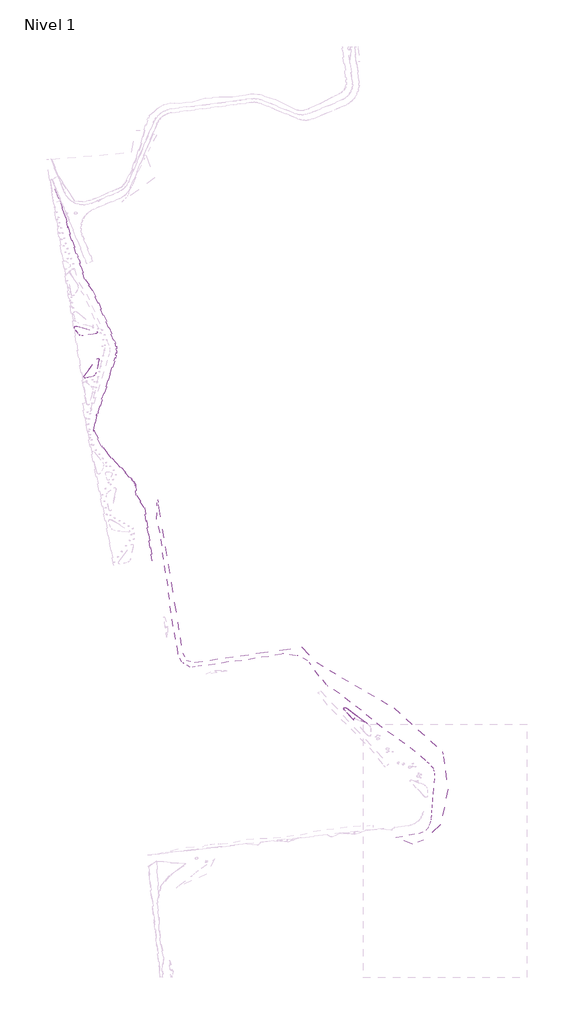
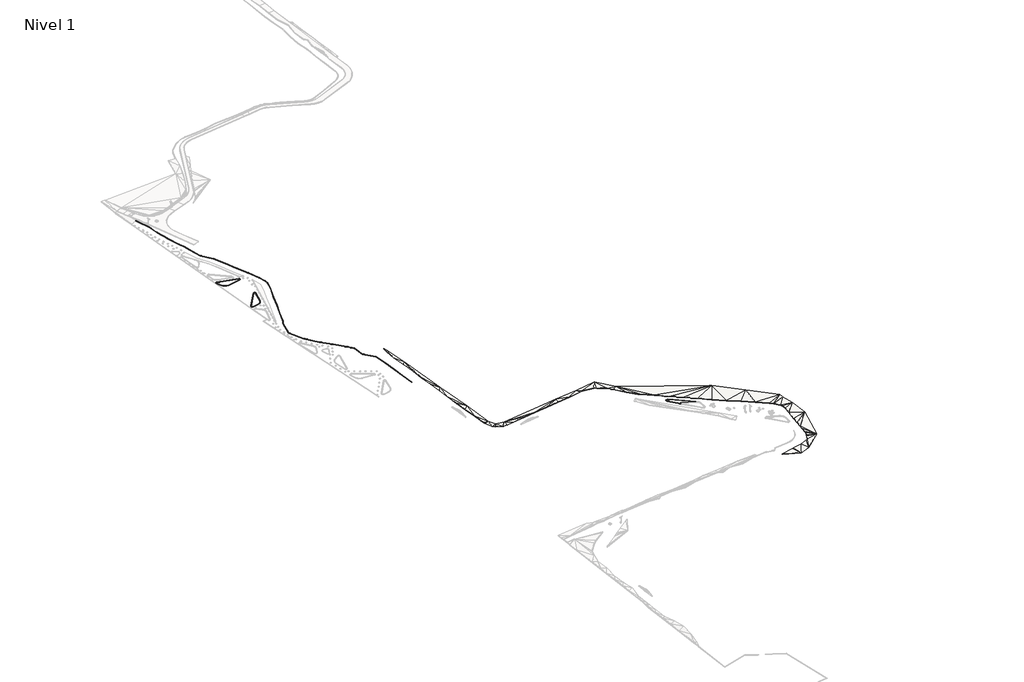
# One storey, part 25 of 45: 8 slabs.
"""IFC4 building model written with IfcOpenShell, lengths in millimetres."""

from ifc_helpers import new_model, si_unit, point, frame, frame_2d, origin, place, context, project, spatial, polyline, circle_curve, trimmed, segment, composite_curve, outline, extrude, faceted_brep, element, save
from ifc_brep_helpers import plane_surface, cylinder_surface, revolved_surface, advanced_brep

model = new_model("IFC4")

# Units and contexts
model_context = context("Model", 3, world=origin())
ifc_project = project(units=[si_unit("LENGTHUNIT", "METRE", prefix="MILLI")], contexts=[model_context])

# Site, building, storey
site = spatial("IfcSite", under=ifc_project)
building = spatial("IfcBuilding", under=site)
storey = spatial("IfcBuildingStorey", under=building, Name="Nivel 1", Elevation=0.0)

# Slabs
placement = place(None, origin())
element("IfcSlab", 1, ObjectType="Bordillo", at=placement, inside=storey, context=model_context, shape_type="AdvancedBrep", body=[
    advanced_brep(
    [(-166211.8423019, 4281.6676897, 4350.0), (-164537.1525516, 6125.7413337, 4350.0), (-148782.7979584, -5912.9642392, 4350.0), (-149334.3354135, -5680.2875761, 4350.0), (-164628.2301597, 6006.5571514, 4350.0), (-166101.9588564, 4383.7736563, 4350.0), (-159242.9454128, -2997.6953689, 4350.0), (-159014.1816779, -3464.2434916, 4350.0), (-166211.8423019, 4281.6676897, 4750.0), (-159014.2888373, -3464.1281734, 4750.0), (-159242.9454128, -2997.6953689, 4750.0), (-166101.9588564, 4383.7736563, 4750.0), (-164628.2301599, 6006.5571515, 4750.0), (-149334.3354135, -5680.2875761, 4750.0), (-148782.7979584, -5912.9642392, 4750.0), (-164537.1525516, 6125.7413337, 4750.0)],
    [
        (0, 1, circle_curve(frame((-165296.1469227, 5132.5507449, 4350.0), z_axis=(0.0, 0.0, -1.0), x_axis=(1.0, 0.0, 0.0)), 1250.0000004)),
        (1, 2),
        (2, 3),
        (3, 4),
        (4, 5, circle_curve(frame((-165296.1469227, 5132.5507449, 4350.0), z_axis=(0.0, 0.0, 1.0), x_axis=(1.0, 0.0, 0.0)), 1100.0000004)),
        (5, 6),
        (6, 7, circle_curve(frame((-158354.8810062, -2851.607691, 4350.0), z_axis=(0.0, 0.0, 1.0), x_axis=(1.0, 0.0, 0.0)), 899.9999999)),
        (7, 0),
        (8, 9),
        (9, 10, circle_curve(frame((-158354.8810062, -2851.607691, 4750.0), z_axis=(0.0, 0.0, -1.0), x_axis=(1.0, 0.0, 0.0)), 899.9999999)),
        (10, 11),
        (11, 12, circle_curve(frame((-165296.1469227, 5132.5507449, 4750.0), z_axis=(0.0, 0.0, -1.0), x_axis=(1.0, 0.0, 0.0)), 1100.0000004)),
        (12, 13),
        (13, 14),
        (14, 15),
        (15, 8, circle_curve(frame((-165296.1469227, 5132.5507449, 4750.0), z_axis=(0.0, 0.0, 1.0), x_axis=(1.0, 0.0, 0.0)), 1250.0000004)),
        (0, 8),
        (15, 1),
        (14, 2),
        (13, 3),
        (12, 4),
        (11, 5),
        (10, 6),
        (9, 7),
    ],
    [
        plane_surface(frame((-164046.1469223, 5132.5507449, 4350.0), z_axis=(0.0, 0.0, -1.0), x_axis=(0.0, -1.0, 0.0))),
        plane_surface(frame((-164046.1469223, 5132.5507449, 4750.0), z_axis=(0.0, 0.0, 1.0), x_axis=(0.0, 1.0, 0.0))),
        cylinder_surface(frame((-165296.1469227, 5132.5507449, 4750.0), z_axis=(0.0, 0.0, -1.0), x_axis=(1.0, 0.0, 0.0)), 1250.0000004),
        plane_surface(frame((-164537.1525516, 6125.7413337, 4350.0), z_axis=(0.6071718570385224, 0.7945705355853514, 0.0), x_axis=(0.0, 0.0, 1.0))),
        plane_surface(frame((-148782.7979584, -5912.9642392, 4350.0), z_axis=(-0.38869596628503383, -0.9213660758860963, 0.0), x_axis=(0.0, 0.0, 1.0))),
        plane_surface(frame((-149334.3354135, -5680.2875761, 4350.0), z_axis=(-0.607171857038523, -0.794570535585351, 0.0), x_axis=(0.0, 0.0, 1.0))),
        revolved_surface(polyline([(-164196.1469223, 5132.5507449, 4750.0), (-164196.1469223, 5132.5507449, 4350.0)]), (-165296.1469227, 5132.5507449, 4750.0), (0.0, 0.0, 1.0)),
        plane_surface(frame((-166101.9588564, 4383.7736563, 4350.0), z_axis=(0.7325563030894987, 0.6807064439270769, 0.0), x_axis=(0.0, 0.0, 1.0))),
        revolved_surface(polyline([(-157454.8810063, -2851.607691, 4750.0), (-157454.8810063, -2851.607691, 4350.0)]), (-158354.8810062, -2851.607691, 4750.0), (0.0, 0.0, 1.0)),
        plane_surface(frame((-159014.2888373, -3464.1281734, 4350.0), z_axis=(-0.7325563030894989, -0.6807064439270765, 0.0), x_axis=(0.0, 0.0, 1.0))),
    ],
    [
        (0, [[1, 2, 3, 4, 5, 6, 7, 8]]),
        (1, [[9, 10, 11, 12, 13, 14, 15, 16]]),
        (2, [[-1, 17, -16, 18]]),
        (3, [[-2, -18, -15, 19]]),
        (4, [[-3, -19, -14, 20]]),
        (5, [[-4, -20, -13, 21]]),
        (6, [[-5, -21, -12, 22]]),
        (7, [[-6, -22, -11, 23]]),
        (8, [[-7, -23, -10, 24]]),
        (9, [[-8, -24, -9, -17]]),
    ],
),
])
element("IfcSlab", 2, ObjectType="Girasol Silvestre", at=placement, inside=storey, context=model_context, shape_type="SweptSolid", body=[
    extrude(outline(composite_curve([segment(trimmed(circle_curve(frame_2d((-165296.1469204, 5132.550743)), 1100.0000014), [point((-166101.9588548, 4383.7736537))], [point((-164628.2980924, 6006.6090626))], False, "CARTESIAN"), True, "CONTINUOUS"), segment(polyline([(-164628.2980924, 6006.6090626), (-149334.3354126, -5680.2875764), (-158005.0546366, -2022.3782227)]), True, "CONTINUOUS"), segment(trimmed(circle_curve(frame_2d((-158354.8810062, -2851.607691)), 899.9999999), [point((-158005.0546366, -2022.3782227))], [point((-159242.9454126, -2997.6953698))], True, "CARTESIAN"), True, "CONTINUOUS"), segment(polyline([(-159242.9454126, -2997.6953698), (-166101.9588548, 4383.7736537)]), True, "CONTINUOUS")], self_intersect=False)), frame((0.0, 0.0, 4450.0), z_axis=(0.0, 0.0, 1.0), x_axis=(1.0, 0.0, 0.0)), (0.0, 0.0, 1.0), 300.0),
])
element("IfcSlab", 3, ObjectType="Tierra de Chacra (20cm)", at=placement, inside=storey, context=model_context, shape_type="AdvancedBrep", body=[
    advanced_brep(
    [(-349584.078902, 264736.8520127, 3000.0), (-348163.6502699, 264081.3811691, 3000.0), (-350356.929504, 254315.3070349, 3000.0), (-353331.2064142, 251419.415557, 3000.0), (-357974.4791605, 250506.1282681, 3000.0), (-359017.0538879, 252166.5942578, 3000.0), (-358777.1022901, 251986.5297396, 3000.0), (-358032.3927309, 250800.485226, 3000.0), (-353389.1042192, 251713.7756158, 3000.0), (-350649.6386439, 254381.0440823, 3000.0), (-348456.3594098, 264147.1182165, 3000.0), (-349344.1273048, 264556.7874937, 3000.0), (-349584.078902, 264736.8520127, 3200.0), (-359017.0538879, 252166.5942578, 3200.0), (-357974.4791605, 250506.1282681, 3200.0), (-353331.2064142, 251419.415557, 3200.0), (-350356.929504, 254315.3070349, 3200.0), (-348163.6502699, 264081.3811691, 3200.0), (-358777.1022949, 251986.5297428, 3200.0), (-349344.1273048, 264556.7874937, 3200.0), (-348456.3594098, 264147.1182165, 3200.0), (-350649.6386439, 254381.0440823, 3200.0), (-353389.1042192, 251713.7756158, 3200.0), (-358032.3927309, 250800.485226, 3200.0)],
    [
        (0, 1, circle_curve(frame((-348944.2079762, 264256.6799622, 3000.0), z_axis=(0.0, 0.0, -1.0), x_axis=(0.9997246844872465, -0.02346391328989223, 0.0)), 799.9999998)),
        (1, 2),
        (2, 3, circle_curve(frame((-354064.578611, 255147.9763022, 3000.0), z_axis=(0.0, 0.0, -1.0), x_axis=(0.9997246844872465, -0.02346391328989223, 0.0)), 3800.0000013)),
        (3, 4),
        (4, 5, circle_curve(frame((-358177.2232944, 251536.3684435, 3000.0), z_axis=(0.0, 0.0, -1.0), x_axis=(0.9997246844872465, -0.02346391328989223, 0.0)), 1050.0000013)),
        (5, 0),
        (6, 7, circle_curve(frame((-358177.2232944, 251536.3684435, 3000.0), z_axis=(0.0, 0.0, 1.0), x_axis=(0.9997246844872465, -0.02346391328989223, 0.0)), 750.0000013)),
        (7, 8),
        (8, 9, circle_curve(frame((-354064.578611, 255147.9763022, 3000.0), z_axis=(0.0, 0.0, 1.0), x_axis=(0.9997246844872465, -0.02346391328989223, 0.0)), 3500.0000013)),
        (9, 10),
        (10, 11, circle_curve(frame((-348944.2079762, 264256.6799622, 3000.0), z_axis=(0.0, 0.0, 1.0), x_axis=(0.9997246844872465, -0.02346391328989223, 0.0)), 499.9999998)),
        (11, 6),
        (12, 13),
        (13, 14, circle_curve(frame((-358177.2232944, 251536.3684435, 3200.0), z_axis=(0.0, 0.0, 1.0), x_axis=(0.9997246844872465, -0.02346391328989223, 0.0)), 1050.0000013)),
        (14, 15),
        (15, 16, circle_curve(frame((-354064.578611, 255147.9763022, 3200.0), z_axis=(0.0, 0.0, 1.0), x_axis=(0.9997246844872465, -0.02346391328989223, 0.0)), 3800.0000013)),
        (16, 17),
        (17, 12, circle_curve(frame((-348944.2079762, 264256.6799622, 3200.0), z_axis=(0.0, 0.0, 1.0), x_axis=(0.9997246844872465, -0.02346391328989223, 0.0)), 799.9999998)),
        (18, 19),
        (19, 20, circle_curve(frame((-348944.2079762, 264256.6799622, 3200.0), z_axis=(0.0, 0.0, -1.0), x_axis=(0.9997246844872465, -0.02346391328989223, 0.0)), 499.9999998)),
        (20, 21),
        (21, 22, circle_curve(frame((-354064.578611, 255147.9763022, 3200.0), z_axis=(0.0, 0.0, -1.0), x_axis=(0.9997246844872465, -0.02346391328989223, 0.0)), 3500.0000013)),
        (22, 23),
        (23, 18, circle_curve(frame((-358177.2232944, 251536.3684435, 3200.0), z_axis=(0.0, 0.0, -1.0), x_axis=(0.9997246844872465, -0.02346391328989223, 0.0)), 750.0000013)),
        (6, 18),
        (23, 7),
        (22, 8),
        (21, 9),
        (20, 10),
        (19, 11),
        (0, 12),
        (17, 1),
        (16, 2),
        (15, 3),
        (14, 4),
        (13, 5),
    ],
    [
        plane_surface(frame((-357427.4297797, 251518.7705085, 3000.0), z_axis=(0.0, 0.0, -1.0000000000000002), x_axis=(0.023463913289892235, 0.9997246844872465, 0.0))),
        plane_surface(frame((-357427.4297797, 251518.7705085, 3200.0), z_axis=(0.0, 0.0, 1.0000000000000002), x_axis=(-0.023463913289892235, -0.9997246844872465, 0.0))),
        revolved_surface(polyline([(-357427.4297797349, 251518.77050850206, 3200.0), (-357427.4297797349, 251518.77050850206, 3000.0)]), (-358177.2232944, 251536.3684435, 3200.0), (0.0, 0.0, 1.0000000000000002)),
        plane_surface(frame((-358032.3927309, 250800.485226, 3000.0), z_axis=(-0.19299268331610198, 0.9812001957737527, 0.0), x_axis=(0.0, 0.0, 1.0))),
        revolved_surface(polyline([(-350565.54221399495, 255065.85260565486, 3200.0), (-350565.54221399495, 255065.85260565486, 3000.0)]), (-354064.578611, 255147.9763022, 3200.0), (0.0, 0.0, 1.0000000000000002)),
        plane_surface(frame((-350649.6386439, 254381.0440823, 3000.0), z_axis=(-0.9756971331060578, 0.21912349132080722, 0.0), x_axis=(0.0, 0.0, 1.0))),
        revolved_surface(polyline([(-348444.3456341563, 264244.94800555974, 3200.0), (-348444.3456341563, 264244.94800555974, 3000.0)]), (-348944.2079762, 264256.6799622, 3200.0), (0.0, 0.0, 1.0000000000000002)),
        plane_surface(frame((-349344.1273048, 264556.7874937, 3000.0), z_axis=(0.7998386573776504, -0.6002150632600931, 0.0), x_axis=(0.0, 0.0, 1.0))),
        cylinder_surface(frame((-348944.2079762, 264256.6799622, 0.0), z_axis=(0.0, 0.0, -1.0000000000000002), x_axis=(0.9997246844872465, -0.02346391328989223, 0.0)), 799.9999998),
        plane_surface(frame((-348163.6502699, 264081.3811691, 3000.0), z_axis=(0.975697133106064, -0.21912349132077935, 0.0), x_axis=(0.0, 0.0, 1.0))),
        cylinder_surface(frame((-354064.578611, 255147.9763022, 0.0), z_axis=(0.0, 0.0, -1.0000000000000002), x_axis=(0.9997246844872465, -0.02346391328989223, 0.0)), 3800.0000013),
        plane_surface(frame((-353331.2064142, 251419.415557, 3000.0), z_axis=(0.19299268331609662, -0.9812001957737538, 0.0), x_axis=(0.0, 0.0, 1.0))),
        cylinder_surface(frame((-358177.2232944, 251536.3684435, 0.0), z_axis=(0.0, 0.0, -1.0000000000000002), x_axis=(0.9997246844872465, -0.02346391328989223, 0.0)), 1050.0000013),
        plane_surface(frame((-359017.0538879, 252166.5942578, 3000.0), z_axis=(-0.7998386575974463, 0.6002150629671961, 0.0), x_axis=(0.0, 0.0, 1.0))),
    ],
    [
        (0, [[1, 2, 3, 4, 5, 6], [7, 8, 9, 10, 11, 12]]),
        (1, [[13, 14, 15, 16, 17, 18], [19, 20, 21, 22, 23, 24]]),
        (2, [[-7, 25, -24, 26]]),
        (3, [[-8, -26, -23, 27]]),
        (4, [[-9, -27, -22, 28]]),
        (5, [[-10, -28, -21, 29]]),
        (6, [[-11, -29, -20, 30]]),
        (7, [[-12, -30, -19, -25]]),
        (8, [[-1, 31, -18, 32]]),
        (9, [[-2, -32, -17, 33]]),
        (10, [[-3, -33, -16, 34]]),
        (11, [[-4, -34, -15, 35]]),
        (12, [[-5, -35, -14, 36]]),
        (13, [[-6, -36, -13, -31]]),
    ],
),
])
element("IfcSlab", 4, ObjectType="Tierra de Chacra (20cm)", at=placement, inside=storey, context=model_context, shape_type="AdvancedBrep", body=[
    advanced_brep(
    [(-349816.3107021, 285068.4348905, 3100.0), (-349881.3073204, 283505.4137885, 3100.0), (-359746.5752757, 281813.3245584, 3100.0), (-363557.0878744, 283460.2927809, 3100.0), (-366170.2039876, 287405.6317585, 3100.0), (-365032.0484359, 289002.1001438, 3100.0), (-365107.1375286, 288711.649411, 3100.0), (-365920.0982801, 287571.3035284, 3100.0), (-363306.9732943, 283625.9511547, 3100.0), (-359797.2906376, 282109.0067392, 3100.0), (-349932.0226822, 283801.0959693, 3100.0), (-349891.3997958, 284777.984158, 3100.0), (-349816.3107021, 285068.4348905, 3300.0), (-365032.0484359, 289002.1001438, 3300.0), (-366170.2039877, 287405.6317586, 3300.0), (-363557.0878744, 283460.2927809, 3300.0), (-359746.5752757, 281813.3245584, 3300.0), (-349881.3073204, 283505.4137885, 3300.0), (-365107.1375275, 288711.6494167, 3300.0), (-349891.3997958, 284777.984158, 3300.0), (-349932.0226822, 283801.0959693, 3300.0), (-359797.2906376, 282109.0067392, 3300.0), (-363306.9732943, 283625.9511547, 3300.0), (-365920.0982801, 287571.3035284, 3300.0)],
    [
        (0, 1, circle_curve(frame((-350016.5482852, 284293.8996039, 3100.0), z_axis=(0.0, 0.0, -1.0), x_axis=(0.35911261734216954, -0.93329423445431, 0.0)), 799.9999998)),
        (1, 2),
        (2, 3, circle_curve(frame((-360388.9698589, 285558.6321838, 3100.0), z_axis=(0.0, 0.0, -1.0), x_axis=(0.35911261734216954, -0.93329423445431, 0.0)), 3800.0000013)),
        (3, 4),
        (4, 5, circle_curve(frame((-365294.8602605, 287985.5225778, 3100.0), z_axis=(0.0, 0.0, -1.0), x_axis=(0.35911261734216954, -0.93329423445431, 0.0)), 1050.0000013)),
        (5, 0),
        (6, 7, circle_curve(frame((-365294.8602605, 287985.5225778, 3100.0), z_axis=(0.0, 0.0, 1.0), x_axis=(0.35911261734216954, -0.93329423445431, 0.0)), 750.0000013)),
        (7, 8),
        (8, 9, circle_curve(frame((-360388.9698589, 285558.6321838, 3100.0), z_axis=(0.0, 0.0, 1.0), x_axis=(0.35911261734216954, -0.93329423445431, 0.0)), 3500.0000013)),
        (9, 10),
        (10, 11, circle_curve(frame((-350016.5482852, 284293.8996039, 3100.0), z_axis=(0.0, 0.0, 1.0), x_axis=(0.35911261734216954, -0.93329423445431, 0.0)), 499.9999998)),
        (11, 6),
        (12, 13),
        (13, 14, circle_curve(frame((-365294.8602605, 287985.5225778, 3300.0), z_axis=(0.0, 0.0, 1.0), x_axis=(0.35911261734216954, -0.93329423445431, 0.0)), 1050.0000013)),
        (14, 15),
        (15, 16, circle_curve(frame((-360388.9698589, 285558.6321838, 3300.0), z_axis=(0.0, 0.0, 1.0), x_axis=(0.35911261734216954, -0.93329423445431, 0.0)), 3800.0000013)),
        (16, 17),
        (17, 12, circle_curve(frame((-350016.5482852, 284293.8996039, 3300.0), z_axis=(0.0, 0.0, 1.0), x_axis=(0.35911261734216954, -0.93329423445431, 0.0)), 799.9999998)),
        (18, 19),
        (19, 20, circle_curve(frame((-350016.5482852, 284293.8996039, 3300.0), z_axis=(0.0, 0.0, -1.0), x_axis=(0.35911261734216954, -0.93329423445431, 0.0)), 499.9999998)),
        (20, 21),
        (21, 22, circle_curve(frame((-360388.9698589, 285558.6321838, 3300.0), z_axis=(0.0, 0.0, -1.0), x_axis=(0.35911261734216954, -0.93329423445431, 0.0)), 3500.0000013)),
        (22, 23),
        (23, 18, circle_curve(frame((-365294.8602605, 287985.5225778, 3300.0), z_axis=(0.0, 0.0, -1.0), x_axis=(0.35911261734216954, -0.93329423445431, 0.0)), 750.0000013)),
        (6, 18),
        (23, 7),
        (22, 8),
        (21, 9),
        (20, 10),
        (19, 11),
        (0, 12),
        (17, 1),
        (16, 2),
        (15, 3),
        (14, 4),
        (13, 5),
    ],
    [
        plane_surface(frame((-365025.525797, 287285.5519007, 3100.0), z_axis=(0.0, 0.0, -1.0), x_axis=(0.93329423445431, 0.35911261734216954, 0.0))),
        plane_surface(frame((-365025.525797, 287285.5519007, 3300.0), z_axis=(0.0, 0.0, 1.0), x_axis=(-0.93329423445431, -0.35911261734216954, 0.0))),
        revolved_surface(polyline([(-365025.5257970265, 287285.55190074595, 3300.0), (-365025.5257970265, 287285.55190074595, 3100.0)]), (-365294.8602605, 287985.5225778, 3300.0), (0.0, 0.0, 1.0)),
        plane_surface(frame((-365920.0982801, 287571.3035284, 3100.0), z_axis=(0.8337152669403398, 0.5521945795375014, 0.0), x_axis=(0.0, 0.0, 1.0))),
        revolved_surface(polyline([(-359132.0756977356, 282292.1023619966, 3300.0), (-359132.0756977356, 282292.1023619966, 3100.0)]), (-360388.9698589, 285558.6321838, 3300.0), (0.0, 0.0, 1.0)),
        plane_surface(frame((-359797.2906376, 282109.0067392, 3100.0), z_axis=(-0.16905120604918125, 0.985607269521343, 0.0), x_axis=(0.0, 0.0, 1.0))),
        revolved_surface(polyline([(-349836.9919766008, 283827.2524868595, 3300.0), (-349836.9919766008, 283827.2524868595, 3100.0)]), (-350016.5482852, 284293.8996039, 3300.0), (0.0, 0.0, 1.0)),
        plane_surface(frame((-349891.3997958, 284777.984158, 3100.0), z_axis=(-0.25029697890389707, -0.9681691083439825, 0.0), x_axis=(0.0, 0.0, 1.0))),
        cylinder_surface(frame((-350016.5482852, 284293.8996039, 0.0), z_axis=(0.0, 0.0, -1.0), x_axis=(0.35911261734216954, -0.93329423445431, 0.0)), 799.9999998),
        plane_surface(frame((-349881.3073204, 283505.4137885, 3100.0), z_axis=(0.16905120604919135, -0.9856072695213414, 0.0), x_axis=(0.0, 0.0, 1.0))),
        cylinder_surface(frame((-360388.9698589, 285558.6321838, 0.0), z_axis=(0.0, 0.0, -1.0), x_axis=(0.35911261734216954, -0.93329423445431, 0.0)), 3800.0000013),
        plane_surface(frame((-363557.0878744, 283460.2927809, 3100.0), z_axis=(-0.833715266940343, -0.5521945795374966, 0.0), x_axis=(0.0, 0.0, 1.0))),
        cylinder_surface(frame((-365294.8602605, 287985.5225778, 0.0), z_axis=(0.0, 0.0, -1.0), x_axis=(0.35911261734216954, -0.93329423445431, 0.0)), 1050.0000013),
        plane_surface(frame((-365032.0484359, 289002.1001438, 3100.0), z_axis=(0.25029697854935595, 0.9681691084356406, 0.0), x_axis=(0.0, 0.0, 1.0))),
    ],
    [
        (0, [[1, 2, 3, 4, 5, 6], [7, 8, 9, 10, 11, 12]]),
        (1, [[13, 14, 15, 16, 17, 18], [19, 20, 21, 22, 23, 24]]),
        (2, [[-7, 25, -24, 26]]),
        (3, [[-8, -26, -23, 27]]),
        (4, [[-9, -27, -22, 28]]),
        (5, [[-10, -28, -21, 29]]),
        (6, [[-11, -29, -20, 30]]),
        (7, [[-12, -30, -19, -25]]),
        (8, [[-1, 31, -18, 32]]),
        (9, [[-2, -32, -17, 33]]),
        (10, [[-3, -33, -16, 34]]),
        (11, [[-4, -34, -15, 35]]),
        (12, [[-5, -35, -14, 36]]),
        (13, [[-6, -36, -13, -31]]),
    ],
),
])
element("IfcSlab", 5, ObjectType="Tierra de Chacra (20cm)", at=placement, inside=storey, context=model_context, shape_type="Brep", body=[
    faceted_brep([(-310116.2335494, 124670.0799117, 3572.3581609), (-310116.2335494, 124670.0799117, 3772.3581609), (-311368.7729887, 134589.7224979, 3950.0), (-311368.7729887, 134589.7224979, 3750.0), (-313109.6332238, 144437.1307516, 3829.4790187), (-313109.6332238, 144437.1307516, 3629.4790187), (-314643.8932294, 154261.1156074, 3799.4818362), (-314643.8932294, 154261.1156074, 3599.4818362), (-320363.3573484, 163537.8747439, 2244.2450779), (-320363.3573484, 163537.8747439, 2044.2450779), (-321166.0667294, 170478.6258643, 2217.7266656), (-321166.0667294, 170478.6258643, 2017.7266656), (-321270.6038999, 171711.8254235, 2246.1172694), (-321270.6038999, 171711.8254235, 2046.1172694), (-321500.8685814, 172205.3964367, 2235.9630998), (-321500.8685814, 172205.3964367, 2035.9630998), (-322536.7080679, 173744.6284747, 2241.3909854), (-322536.7080679, 173744.6284747, 2041.3909854), (-325207.7764382, 176611.9011925, 2258.2016348), (-325207.7764382, 176611.9011925, 2058.2016348), (-331931.077074, 184009.4556497, 2320.1359145), (-331931.077074, 184009.4556497, 2120.1359145), (-338962.0017916, 191137.7541391, 2279.6), (-338962.0017916, 191137.7541391, 2079.6), (-345311.6239558, 198906.4866198, 2380.3629977), (-345311.6239558, 198906.4866198, 2180.3629977), (-346376.3880934, 200196.6038016, 2419.3223995), (-346376.3880934, 200196.6038016, 2219.3223995), (-351902.7960952, 211029.4687995, 2475.1908126), (-351902.7960952, 211029.4687995, 2275.1908126), (-352018.4726025, 211778.0430658, 2579.831135), (-352018.4726025, 211778.0430658, 2379.831135), (-350071.7097583, 222820.1852167, 2973.8314635), (-350071.7097583, 222820.1852167, 2773.8314635), (-348805.8861655, 225061.0914534, 2999.2566897), (-348805.8861655, 225061.0914534, 2799.2566897), (-345979.5894232, 234624.0155497, 3147.1237857), (-345979.5894232, 234624.0155497, 2947.1237857), (-342801.9736601, 244108.5475186, 3166.7091349), (-342801.9736601, 244108.5475186, 2966.7091349), (-339992.6367028, 253707.8431664, 3164.8741518), (-339992.6367028, 253707.8431664, 2964.8741518), (-336753.3853063, 263167.5544163, 3235.4458204), (-336753.3853063, 263167.5544163, 3035.4458204), (-335656.8979028, 267557.7372579, 3178.1164751), (-335656.8979028, 267557.7372579, 2978.1164751), (-335134.7992883, 270658.483353, 3222.1468264), (-335134.7992883, 270658.483353, 3022.1468264), (-335115.2302506, 270769.7367618, 3213.1530629), (-335115.2302506, 270769.7367618, 3013.1530629), (-335335.5652014, 273844.1278027, 3377.0134277), (-335335.5652014, 273844.1278027, 3177.0134277), (-337046.0708654, 278513.7909507, 3527.8960999), (-337046.0708654, 278513.7909507, 3327.8960999), (-340815.7641802, 287765.2313566, 3560.3816968), (-340815.7641802, 287765.2313566, 3360.3816968), (-344879.1464246, 296904.3173386, 3472.2300872), (-344879.1464246, 296904.3173386, 3272.2300872), (-348784.2329817, 306109.6673893, 3456.6525594), (-348784.2329817, 306109.6673893, 3256.6525594), (-352907.2541781, 315194.9322322, 3314.6303261), (-352907.2541781, 315194.9322322, 3114.6303261), (-358646.0584809, 323663.5707194, 2620.7673556), (-358646.0584809, 323663.5707194, 2420.7673556), (-361807.8658373, 333236.669947, 2883.2146709), (-361807.8658373, 333236.669947, 2683.2146709), (-362931.1968106, 338165.4456021, 3110.6357175), (-362931.1968106, 338165.4456021, 2910.6357175), (-364957.2945284, 342720.3987805, 3118.614259), (-364957.2945284, 342720.3987805, 2918.614259), (-368249.2588119, 352181.7391036, 3300.7039361), (-368249.2588119, 352181.7391036, 3100.7039361), (-368392.3615257, 352515.8605432, 3303.3736204), (-368392.3615257, 352515.8605432, 3103.3736204), (-371246.4170413, 361795.2088719, 3610.0203173), (-371246.4170413, 361795.2088719, 3410.0203173), (-371504.3898534, 362861.6872845, 3624.6308561), (-371504.3898534, 362861.6872845, 3424.6308561), (-372942.8623616, 369753.3056499, 3966.9784649), (-372942.8623616, 369753.3056499, 3766.9784649), (-383220.7482418, 397604.5384709, 3775.8116597), (-383220.7482418, 397604.5384709, 3575.8116597), (-382943.1822184, 397718.9185288, 3775.7883403), (-382943.1822184, 397718.9185288, 3575.7883403), (-372653.7280221, 369836.3376397, 4078.5525184), (-372653.7280221, 369836.3376397, 3878.5525184), (-371211.6862292, 362927.6190884, 3646.3502725), (-371211.6862292, 362927.6190884, 3446.3502725), (-370956.9803857, 361874.6465617, 3591.0768573), (-370956.9803857, 361874.6465617, 3391.0768573), (-368110.3086573, 352619.3050307, 3293.5378343), (-368110.3086573, 352619.3050307, 3093.5378343), (-367969.3627193, 352290.2193102, 3295.2167332), (-367969.3627193, 352290.2193102, 3095.2167332), (-364678.0832557, 342830.8472083, 3113.1649358), (-364678.0832557, 342830.8472083, 2913.1649358), (-362645.1992749, 338260.6375543, 3155.8269052), (-362645.1992749, 338260.6375543, 2955.8269052), (-361518.532604, 333317.2260479, 2875.1804531), (-361518.532604, 333317.2260479, 2675.1804531), (-358374.2878257, 323797.3015664, 2635.9307323), (-358374.2878257, 323797.3015664, 2435.9307323), (-352644.6042294, 315342.1223229, 3328.6909436), (-352644.6042294, 315342.1223229, 3128.6909436), (-348509.5097031, 306230.2533482, 3446.6026594), (-348509.5097031, 306230.2533482, 3246.6026594), (-344603.9747405, 297023.8462836, 3481.7846236), (-344603.9747405, 297023.8462836, 3281.7846236), (-340539.7222008, 287882.8028922, 3574.2109208), (-340539.7222008, 287882.8028922, 3374.2109208), (-336766.2223502, 278622.0206283, 3561.7537826), (-336766.2223502, 278622.0206283, 3361.7537826), (-335039.3501872, 273907.6771039, 3495.7048862), (-335039.3501872, 273907.6771039, 3295.7048862), (-334813.3502722, 270754.2413397, 3331.041134), (-334813.3502722, 270754.2413397, 3131.041134), (-334839.1454866, 270607.5910255, 3319.8354266), (-334839.1454866, 270607.5910255, 3119.8354266), (-335363.0043749, 267496.3906559, 3276.5263224), (-335363.0043749, 267496.3906559, 3076.5263224), (-336465.4232566, 263082.4590016, 3357.9083412), (-336465.4232566, 263082.4590016, 3157.9083412), (-339706.6185082, 253617.0710364, 3253.0452475), (-339706.6185082, 253617.0710364, 3053.0452475), (-342515.6758596, 244018.7307812, 3298.9415297), (-342515.6758596, 244018.7307812, 3098.9415297), (-345693.4182667, 234533.8208062, 3216.25424), (-345693.4182667, 234533.8208062, 3016.25424), (-348527.8728286, 224943.294297, 3253.2174622), (-348527.8728286, 224943.294297, 3053.2174622), (-349785.198812, 222717.4315039, 3070.8765349), (-349785.198812, 222717.4315039, 2870.8765349), (-351714.4139369, 211774.8209484, 2599.6669714), (-351714.4139369, 211774.8209484, 2399.6669714), (-351613.6715368, 211122.8893682, 2587.0221428), (-351613.6715368, 211122.8893682, 2387.0221428), (-346124.0906929, 200362.2129654, 2523.7162756), (-346124.0906929, 200362.2129654, 2323.7162756), (-345079.7929854, 199096.8938513, 2491.6913855), (-345079.7929854, 199096.8938513, 2291.6913855), (-338738.5809611, 191338.4511367, 2279.5681059), (-338738.5809611, 191338.4511367, 2079.5681059), (-331713.1892662, 184215.7622988, 2378.9285311), (-331713.1892662, 184215.7622988, 2178.9285311), (-324987.0092961, 176815.03975, 2342.1239235), (-324987.0092961, 176815.03975, 2142.1239235), (-322301.0473245, 173931.7794156, 2343.8064951), (-322301.0473245, 173931.7794156, 2143.8064951), (-321238.901732, 172353.4571503, 2340.3014186), (-321238.901732, 172353.4571503, 2140.3014186), (-320976.181732, 171790.3183494, 2348.3643529), (-320976.181732, 171790.3183494, 2148.3643529), (-320867.5262148, 170508.5356564, 2317.2910032), (-320867.5262148, 170508.5356564, 2117.2910032), (-320073.0030218, 163638.5676802, 2334.9048134), (-320073.0030218, 163638.5676802, 2134.9048134), (-314356.8113283, 154367.1162967, 3898.8365114), (-314356.8113283, 154367.1162967, 3698.8365114), (-312813.6903591, 144486.3940097, 3932.0299708), (-312813.6903591, 144486.3940097, 3732.0299708), (-311072.0642687, 134634.6535928, 4031.9999969), (-311072.0642687, 134634.6535928, 3831.9999969), (-309819.0902958, 124711.5696642, 3842.4409479), (-309819.0902958, 124711.5696642, 3642.4409479), (-308306.2864888, 114826.4210574, 3737.0810359), (-308306.2864888, 114826.4210574, 3537.0810359), (-308604.2221861, 114790.1093883, 3737.1), (-308604.2221861, 114790.1093883, 3537.1)], [[[0, 1, 2, 3]], [[3, 2, 4, 5]], [[5, 4, 6, 7]], [[7, 6, 8, 9]], [[9, 8, 10, 11]], [[11, 10, 12, 13]], [[13, 12, 14, 15]], [[15, 14, 16, 17]], [[17, 16, 18, 19]], [[19, 18, 20, 21]], [[21, 20, 22, 23]], [[23, 22, 24, 25]], [[25, 24, 26, 27]], [[27, 26, 28, 29]], [[29, 28, 30, 31]], [[31, 30, 32, 33]], [[33, 32, 34, 35]], [[35, 34, 36, 37]], [[37, 36, 38, 39]], [[39, 38, 40, 41]], [[41, 40, 42, 43]], [[43, 42, 44, 45]], [[45, 44, 46, 47]], [[47, 46, 48, 49]], [[49, 48, 50, 51]], [[51, 50, 52, 53]], [[53, 52, 54, 55]], [[55, 54, 56, 57]], [[57, 56, 58, 59]], [[59, 58, 60, 61]], [[61, 60, 62, 63]], [[63, 62, 64, 65]], [[65, 64, 66, 67]], [[67, 66, 68, 69]], [[69, 68, 70, 71]], [[71, 70, 72, 73]], [[73, 72, 74, 75]], [[75, 74, 76, 77]], [[77, 76, 78, 79]], [[79, 78, 80, 81]], [[81, 80, 82, 83]], [[83, 82, 84, 85]], [[85, 84, 86, 87]], [[87, 86, 88, 89]], [[89, 88, 90, 91]], [[91, 90, 92, 93]], [[93, 92, 94, 95]], [[95, 94, 96, 97]], [[97, 96, 98, 99]], [[99, 98, 100, 101]], [[101, 100, 102, 103]], [[103, 102, 104, 105]], [[105, 104, 106, 107]], [[107, 106, 108, 109]], [[109, 108, 110, 111]], [[111, 110, 112, 113]], [[113, 112, 114, 115]], [[115, 114, 116, 117]], [[117, 116, 118, 119]], [[119, 118, 120, 121]], [[121, 120, 122, 123]], [[123, 122, 124, 125]], [[125, 124, 126, 127]], [[127, 126, 128, 129]], [[129, 128, 130, 131]], [[131, 130, 132, 133]], [[133, 132, 134, 135]], [[135, 134, 136, 137]], [[137, 136, 138, 139]], [[139, 138, 140, 141]], [[141, 140, 142, 143]], [[143, 142, 144, 145]], [[145, 144, 146, 147]], [[147, 146, 148, 149]], [[149, 148, 150, 151]], [[151, 150, 152, 153]], [[153, 152, 154, 155]], [[155, 154, 156, 157]], [[157, 156, 158, 159]], [[159, 158, 160, 161]], [[161, 160, 162, 163]], [[163, 162, 164, 165]], [[165, 164, 166, 167]], [[167, 166, 1, 0]], [[166, 164, 162]], [[167, 163, 165]], [[166, 162, 1]], [[167, 0, 163]], [[162, 2, 1]], [[162, 160, 2]], [[160, 158, 2]], [[163, 0, 3]], [[163, 3, 161]], [[161, 3, 159]], [[158, 156, 6]], [[159, 7, 157]], [[158, 4, 2]], [[158, 6, 4]], [[156, 154, 6]], [[159, 3, 5]], [[159, 5, 7]], [[157, 7, 155]], [[154, 152, 10]], [[155, 11, 153]], [[154, 10, 8]], [[154, 8, 6]], [[152, 150, 12]], [[155, 9, 11]], [[155, 7, 9]], [[153, 13, 151]], [[152, 12, 10]], [[150, 148, 12]], [[153, 11, 13]], [[151, 13, 149]], [[148, 146, 16]], [[149, 17, 147]], [[148, 16, 14]], [[148, 14, 12]], [[146, 144, 16]], [[149, 15, 17]], [[149, 13, 15]], [[147, 17, 145]], [[144, 142, 20]], [[145, 21, 143]], [[144, 18, 16]], [[145, 17, 19]], [[144, 20, 18]], [[145, 19, 21]], [[142, 140, 20]], [[143, 21, 141]], [[140, 138, 24]], [[141, 25, 139]], [[140, 22, 20]], [[140, 24, 22]], [[138, 136, 24]], [[141, 21, 23]], [[141, 23, 25]], [[139, 25, 137]], [[136, 134, 26]], [[137, 27, 135]], [[136, 26, 24]], [[134, 132, 28]], [[137, 25, 27]], [[135, 29, 133]], [[134, 28, 26]], [[135, 27, 29]], [[132, 130, 30]], [[133, 31, 131]], [[132, 30, 28]], [[130, 128, 34]], [[133, 29, 31]], [[131, 35, 129]], [[130, 32, 30]], [[130, 34, 32]], [[128, 126, 34]], [[131, 31, 33]], [[131, 33, 35]], [[129, 35, 127]], [[126, 124, 38]], [[127, 39, 125]], [[126, 36, 34]], [[126, 38, 36]], [[124, 122, 38]], [[127, 35, 37]], [[127, 37, 39]], [[125, 39, 123]], [[122, 120, 42]], [[123, 43, 121]], [[122, 42, 40]], [[122, 40, 38]], [[120, 118, 42]], [[123, 41, 43]], [[123, 39, 41]], [[121, 43, 119]], [[118, 116, 44]], [[119, 45, 117]], [[118, 44, 42]], [[116, 114, 48]], [[119, 43, 45]], [[117, 49, 115]], [[116, 48, 46]], [[114, 112, 50]], [[116, 46, 44]], [[117, 47, 49]], [[115, 51, 113]], [[117, 45, 47]], [[112, 110, 50]], [[114, 50, 48]], [[113, 51, 111]], [[115, 49, 51]], [[110, 108, 52]], [[111, 53, 109]], [[108, 106, 54]], [[110, 52, 50]], [[109, 55, 107]], [[111, 51, 53]], [[106, 104, 58]], [[108, 54, 52]], [[107, 59, 105]], [[109, 53, 55]], [[106, 58, 56]], [[106, 56, 54]], [[104, 102, 60]], [[107, 57, 59]], [[107, 55, 57]], [[105, 61, 103]], [[104, 60, 58]], [[102, 100, 62, 60]], [[105, 59, 61]], [[103, 61, 63, 101]], [[100, 98, 64]], [[101, 65, 99]], [[100, 64, 62]], [[98, 96, 66]], [[101, 63, 65]], [[99, 67, 97]], [[98, 66, 64]], [[96, 94, 66]], [[99, 65, 67]], [[97, 67, 95]], [[94, 92, 70, 68]], [[95, 69, 71, 93]], [[92, 90, 70]], [[94, 68, 66]], [[93, 71, 91]], [[95, 67, 69]], [[90, 88, 74]], [[91, 75, 89]], [[90, 74, 72]], [[88, 86, 76]], [[90, 72, 70]], [[91, 73, 75]], [[89, 77, 87]], [[91, 71, 73]], [[88, 76, 74]], [[86, 84, 78]], [[89, 75, 77]], [[87, 79, 85]], [[84, 82, 78]], [[86, 78, 76]], [[85, 79, 83]], [[87, 77, 79]], [[82, 80, 78]], [[83, 79, 81]]]),
])
element("IfcSlab", 6, ObjectType="Bordillo", at=placement, inside=storey, context=model_context, shape_type="SweptSolid", body=[
    extrude(outline(composite_curve([segment(polyline([(-353311.8204042, 251321.2632258), (-357955.2541193, 250407.9442757)]), True, "CONTINUOUS"), segment(trimmed(circle_curve(frame_2d((-358177.1957053, 251536.3245016)), 1150.0000008), [point((-357955.2541193, 250407.9442757))], [point((-359097.0446244, 252226.5258982))], False, "CARTESIAN"), True, "CONTINUOUS"), segment(polyline([(-359097.0446244, 252226.5258982), (-349664.0351733, 264796.8295731)]), True, "CONTINUOUS"), segment(trimmed(circle_curve(frame_2d((-348944.1803821, 264256.6360166)), 899.9999994), [point((-349664.0351733, 264796.8295731))], [point((-348066.0529629, 264059.4248747))], False, "CARTESIAN"), True, "CONTINUOUS"), segment(polyline([(-348066.0529629, 264059.4248747), (-350259.3321954, 254293.3507408)]), True, "CONTINUOUS"), segment(trimmed(circle_curve(frame_2d((-354064.5510161, 255147.9323568)), 3900.0000016), [point((-350259.3321954, 254293.3507408))], [point((-353311.8204042, 251321.2632258))], False, "CARTESIAN"), True, "CONTINUOUS")], self_intersect=False), holes=[composite_curve([segment(polyline([(-350356.929504, 254315.3070349), (-348163.6502699, 264081.3811691)]), True, "CONTINUOUS"), segment(trimmed(circle_curve(frame_2d((-348944.2079762, 264256.6799622)), 799.9999998), [point((-348163.6502699, 264081.3811691))], [point((-349584.0789022, 264736.8520124))], True, "CARTESIAN"), True, "CONTINUOUS"), segment(polyline([(-349584.0789022, 264736.8520124), (-359017.0538859, 252166.5942604)]), True, "CONTINUOUS"), segment(trimmed(circle_curve(frame_2d((-358177.2232944, 251536.3684435)), 1050.0000013), [point((-359017.0538859, 252166.5942604))], [point((-357974.4791603, 250506.1282682))], True, "CARTESIAN"), True, "CONTINUOUS"), segment(polyline([(-357974.4791603, 250506.1282682), (-353331.2064142, 251419.415557)]), True, "CONTINUOUS"), segment(trimmed(circle_curve(frame_2d((-354064.578611, 255147.9763022)), 3800.0000013), [point((-353331.2064142, 251419.415557))], [point((-350356.929504, 254315.3070349))], True, "CARTESIAN"), True, "CONTINUOUS")], self_intersect=False)]), frame((0.0, 0.0, 3100.0), z_axis=(0.0, 0.0, 1.0), x_axis=(1.0, 0.0, 0.0)), (0.0, 0.0, 1.0), 400.0),
])
element("IfcSlab", 7, ObjectType="Bordillo", at=placement, inside=storey, context=model_context, shape_type="SweptSolid", body=[
    extrude(outline(composite_curve([segment(trimmed(circle_curve(frame_2d((-360388.9953142, 285558.5964719)), 3900.0000014), [point((-359729.6956101, 281714.7281194))], [point((-363640.4848566, 283405.0376112))], False, "CARTESIAN"), True, "CONTINUOUS"), segment(polyline([(-363640.4848566, 283405.0376112), (-366253.6582727, 287350.463107)]), True, "CONTINUOUS"), segment(trimmed(circle_curve(frame_2d((-365294.8857161, 287985.4868731)), 1149.9999995), [point((-366253.6582727, 287350.463107))], [point((-365007.0441905, 289098.8813472))], False, "CARTESIAN"), True, "CONTINUOUS"), segment(polyline([(-365007.0441905, 289098.8813472), (-349791.3064589, 285165.2160886)]), True, "CONTINUOUS"), segment(trimmed(circle_curve(frame_2d((-350016.5737397, 284293.8638919)), 899.9999991), [point((-349791.3064589, 285165.2160886))], [point((-349864.4276544, 283406.8173503))], False, "CARTESIAN"), True, "CONTINUOUS"), segment(polyline([(-349864.4276544, 283406.8173503), (-359729.6956101, 281714.7281194)]), True, "CONTINUOUS")], self_intersect=False), holes=[composite_curve([segment(trimmed(circle_curve(frame_2d((-350016.5482852, 284293.8996039)), 799.9999998), [point((-349881.3073204, 283505.4137885))], [point((-349816.3107024, 285068.4348905))], True, "CARTESIAN"), True, "CONTINUOUS"), segment(polyline([(-349816.3107024, 285068.4348905), (-365032.0484327, 289002.1001429)]), True, "CONTINUOUS"), segment(trimmed(circle_curve(frame_2d((-365294.8602605, 287985.5225778)), 1050.0000013), [point((-365032.0484327, 289002.1001429))], [point((-366170.2039875, 287405.6317583))], True, "CARTESIAN"), True, "CONTINUOUS"), segment(polyline([(-366170.2039875, 287405.6317583), (-363557.0878744, 283460.2927809)]), True, "CONTINUOUS"), segment(trimmed(circle_curve(frame_2d((-360388.9698589, 285558.6321838)), 3800.0000013), [point((-363557.0878744, 283460.2927809))], [point((-359746.5752757, 281813.3245584))], True, "CARTESIAN"), True, "CONTINUOUS"), segment(polyline([(-359746.5752757, 281813.3245584), (-349881.3073204, 283505.4137885)]), True, "CONTINUOUS")], self_intersect=False)]), frame((0.0, 0.0, 3100.0), z_axis=(0.0, 0.0, 1.0), x_axis=(1.0, 0.0, 0.0)), (0.0, 0.0, 1.0), 400.0),
])
element("IfcSlab", 8, ObjectType="Vidrio", at=placement, inside=storey, context=model_context, shape_type="Brep", body=[
    faceted_brep([(-115501.5759821, -95462.2613615, 3200.0), (-115501.5759821, -95462.2613615, 3500.0), (-127743.272456, -90138.654764, 3434.0882005), (-127743.272456, -90138.654764, 3134.0882005), (-118070.7484175, -88275.6652529, 3817.0540039), (-118070.7484175, -88275.6652529, 3517.0540039), (-117649.8797297, -88218.4432181, 3821.8806788), (-117649.8797297, -88218.4432181, 3521.8806788), (-110477.6947811, -87055.4811502, 3945.1479736), (-110477.6947811, -87055.4811502, 3645.1479736), (-105149.9831594, -84778.0678937, 4178.3390002), (-105149.9831594, -84778.0678937, 3878.3390002), (-103864.7541594, -83885.2502475, 4104.7865556), (-103864.7541594, -83885.2502475, 3804.7865556), (-102777.8328204, -81077.7494124, 4558.7767819), (-102225.8249679, -79651.921755, 4634.8944323), (-101215.0705511, -77041.1588898, 4483.5698066), (-101215.0705511, -77041.1588898, 4183.5698066), (-102225.8249679, -79651.921755, 4334.8944323), (-102777.8328204, -81077.7494124, 4258.7767819), (-101259.2749335, -75718.8048711, 4596.5989041), (-101259.2749335, -75718.8048711, 4296.5989041), (-100961.0863209, -72003.037441, 4687.1689334), (-100659.0385315, -68239.1803037, 4694.0530904), (-100297.1537572, -63729.686645, 4677.7617526), (-99843.1343247, -58072.0909213, 4627.4159273), (-99843.1343247, -58072.0909213, 4327.4159273), (-100297.1537572, -63729.686645, 4377.7617526), (-100659.0385315, -68239.1803037, 4394.0530904), (-100961.0863209, -72003.037441, 4387.1689334), (-99108.1909612, -49572.3194959, 4476.5674916), (-99108.1909612, -49572.3194959, 4176.5674916), (-98694.4746925, -43950.8258751, 4471.5104276), (-98694.4746925, -43950.8258751, 4171.5104276), (-98991.778915, -41085.352126, 4595.6887545), (-98991.778915, -41085.352126, 4295.6887545), (-99671.9337988, -39179.0863307, 4625.2738751), (-99671.9337988, -39179.0863307, 4325.2738751), (-102929.4039211, -35428.8161615, 4737.071715), (-102929.4039211, -35428.8161615, 4437.071715), (-105358.7161722, -33350.8138297, 4641.7509528), (-105358.7161722, -33350.8138297, 4341.7509528), (-113082.1995788, -26876.806227, 4392.2703897), (-113082.1995788, -26876.806227, 4092.2703897), (-121087.3583394, -20664.5371797, 4110.0241805), (-121087.3583394, -20664.5371797, 3810.0241805), (-129313.7974936, -14657.886445, 3978.7628216), (-129313.7974936, -14657.886445, 3678.7628216), (-137867.2355796, -8955.0898684, 4295.7250706), (-137867.2355796, -8955.0898684, 3995.7250706), (-145525.6297787, -2420.60003, 4001.8120276), (-145525.6297787, -2420.60003, 3701.8120276), (-153321.9142944, 3985.7592774, 3801.9712848), (-153321.9142944, 3985.7592774, 3501.9712848), (-161554.8836504, 9986.3420153, 3900.2088677), (-161554.8836504, 9986.3420153, 3600.2088677), (-169307.1025694, 16433.647987, 3670.4599118), (-169307.1025694, 16433.647987, 3370.4599118), (-177936.0507947, 22066.2789816, 4038.8500663), (-177936.0507947, 22066.2789816, 3738.8500663), (-179123.3899298, 22875.0235146, 4075.9767047), (-179123.3899298, 22875.0235146, 3775.9767047), (-184696.1576283, 29435.4759889, 3884.3366631), (-184696.1576283, 29435.4759889, 3584.3366631), (-190546.964766, 37649.6130513, 3231.5411929), (-190546.964766, 37649.6130513, 2931.5411929), (-193406.32854, 40657.8648748, 3255.0), (-193406.32854, 40657.8648748, 2955.0), (-200258.2904766, 44357.1614498, 3784.9651111), (-200258.2904766, 44357.1614498, 3484.9651111), (-202183.1326844, 44529.8323544, 4069.3818096), (-202183.1326844, 44529.8323544, 3769.3818096), (-211299.6526565, 46046.8801731, 3756.9416878), (-211299.6526565, 46046.8801731, 3456.9416878), (-212507.695862, 45674.2013419, 3856.3751598), (-212507.695862, 45674.2013419, 3556.3751598), (-222359.326144, 43924.4960626, 4026.7451824), (-222359.326144, 43924.4960626, 3726.7451824), (-232265.7159051, 42558.6081749, 4003.2017284), (-232265.7159051, 42558.6081749, 3703.2017284), (-242119.4287703, 40823.500034, 4166.2319122), (-242119.4287703, 40823.500034, 3866.2319122), (-252102.2326246, 39993.2099735, 3872.255893), (-252102.2326246, 39993.2099735, 3572.255893), (-261954.5800022, 38248.5309249, 4040.0), (-261954.5800022, 38248.5309249, 3740.0), (-271881.915405, 37029.4541778, 3942.3716452), (-271881.915405, 37029.4541778, 3642.3716452), (-276882.665371, 36255.0256556, 3972.5305691), (-276882.665371, 36255.0256556, 3672.5305691), (-280563.9083667, 35901.3654949, 4191.5341788), (-280563.9083667, 35901.3654949, 3891.5341788), (-284806.6151359, 38737.4132933, 3732.838427), (-284806.6151359, 38737.4132933, 3432.838427), (-286593.791421, 40003.6539385, 3871.9967492), (-286593.791421, 40003.6539385, 3571.9967492), (-289266.4450185, 45659.6261306, 3890.6989912), (-289266.4450185, 45659.6261306, 3590.6989912), (-289439.4085589, 46838.8645803, 3891.0582703), (-289439.4085589, 46838.8645803, 3591.0582703), (-291098.934208, 56702.5917103, 3999.6522254), (-291098.934208, 56702.5917103, 3699.6522254), (-292967.9493858, 66535.7332421, 4214.07262), (-292967.9493858, 66535.7332421, 3914.07262), (-294609.3005556, 76402.1138573, 4313.4606026), (-294609.3005556, 76402.1138573, 4013.4606026), (-295683.0165093, 86351.3695678, 4126.0020149), (-295683.0165093, 86351.3695678, 3826.0020149), (-296886.0949192, 96281.7382799, 4003.8977227), (-296886.0949192, 96281.7382799, 3703.8977227), (-298467.8356563, 106156.8220563, 4073.1538811), (-298467.8356563, 106156.8220563, 3773.1538811), (-300023.1985767, 116035.7570095, 4129.1187122), (-300023.1985767, 116035.7570095, 3829.1187122), (-301370.9445155, 125945.0041713, 4205.076861), (-301370.9445155, 125945.0041713, 3905.076861), (-302849.583242, 135835.1409049, 4347.2310328), (-302849.583242, 135835.1409049, 4047.2310328), (-305168.5197738, 145602.5936404, 4789.1263133), (-305168.5197738, 145602.5936404, 4489.1263133), (-304926.9269547, 155743.885242, 3936.9827048), (-304926.9269547, 155743.885242, 3636.9827048), (-304682.2370973, 160228.124325, 3510.0), (-304682.2370973, 160228.124325, 3210.0), (-304101.3239414, 156678.0386275, 4100.0), (-301118.3066879, 138448.1762475, 4484.6710232), (-294680.8177126, 99107.2914574, 4132.1127916), (-289829.7065923, 69461.1041917, 4244.860429), (-286076.8351836, 46526.4968803, 3800.0), (-286076.8351836, 46526.4968803, 3500.0), (-289829.7065923, 69461.1041917, 3944.860429), (-294680.8177126, 99107.2914574, 3832.1127916), (-301118.3066879, 138448.1762475, 4184.6710232), (-304101.3239414, 156678.0386275, 3800.0), (-282932.6276056, 41243.6167659, 3750.0), (-282932.6276056, 41243.6167659, 3450.0), (-276976.2511908, 39721.6300318, 4300.0), (-276976.2511908, 39721.6300318, 4000.0), (-231544.5929041, 46203.3945224, 4200.0), (-213942.3894521, 48714.7124358, 3809.2436103), (-197890.0168313, 51004.9149679, 3950.0), (-197890.0168313, 51004.9149679, 3650.0), (-213942.3894521, 48714.7124358, 3509.2436103), (-231544.5929041, 46203.3945224, 3900.0), (-186755.776447, 39546.4040922, 3300.0), (-186755.776447, 39546.4040922, 3000.0), (-129265.4255608, 5866.8841483, 4100.0), (-129265.4255608, 5866.8841483, 3800.0), (-111211.3200316, -10388.5140218, 4000.0), (-93157.2145024, -26643.9121919, 3600.0), (-93157.2145024, -26643.9121919, 3300.0), (-111211.3200316, -10388.5140218, 3700.0), (-92609.6385092, -30353.9539509, 3800.0), (-91096.2871334, -40607.502079, 4700.0), (-89035.3597644, -54571.0919662, 4100.0), (-89035.3597644, -54571.0919662, 3800.0), (-91096.2871334, -40607.502079, 4400.0), (-92609.6385092, -30353.9539509, 3500.0), (-94682.5864206, -80891.0052976, 3500.0), (-94682.5864206, -80891.0052976, 3200.0), (-107431.9297773, -92376.9626649, 3500.0), (-107431.9297773, -92376.9626649, 3200.0)], [[[0, 1, 2, 3]], [[3, 2, 4, 5]], [[5, 4, 6, 7]], [[7, 6, 8, 9]], [[9, 8, 10, 11]], [[11, 10, 12, 13]], [[13, 12, 14, 15, 16, 17, 18, 19]], [[17, 16, 20, 21]], [[21, 20, 22, 23, 24, 25, 26, 27, 28, 29]], [[26, 25, 30, 31]], [[31, 30, 32, 33]], [[33, 32, 34, 35]], [[35, 34, 36, 37]], [[37, 36, 38, 39]], [[39, 38, 40, 41]], [[41, 40, 42, 43]], [[43, 42, 44, 45]], [[45, 44, 46, 47]], [[47, 46, 48, 49]], [[49, 48, 50, 51]], [[51, 50, 52, 53]], [[53, 52, 54, 55]], [[55, 54, 56, 57]], [[57, 56, 58, 59]], [[59, 58, 60, 61]], [[61, 60, 62, 63]], [[63, 62, 64, 65]], [[65, 64, 66, 67]], [[67, 66, 68, 69]], [[69, 68, 70, 71]], [[71, 70, 72, 73]], [[73, 72, 74, 75]], [[75, 74, 76, 77]], [[77, 76, 78, 79]], [[79, 78, 80, 81]], [[81, 80, 82, 83]], [[83, 82, 84, 85]], [[85, 84, 86, 87]], [[87, 86, 88, 89]], [[89, 88, 90, 91]], [[91, 90, 92, 93]], [[93, 92, 94, 95]], [[95, 94, 96, 97]], [[97, 96, 98, 99]], [[99, 98, 100, 101]], [[101, 100, 102, 103]], [[103, 102, 104, 105]], [[105, 104, 106, 107]], [[107, 106, 108, 109]], [[109, 108, 110, 111]], [[111, 110, 112, 113]], [[113, 112, 114, 115]], [[115, 114, 116, 117]], [[117, 116, 118, 119]], [[119, 118, 120, 121]], [[121, 120, 122, 123]], [[123, 122, 124, 125, 126, 127, 128, 129, 130, 131, 132, 133]], [[129, 128, 134, 135]], [[135, 134, 136, 137]], [[137, 136, 138, 139, 140, 141, 142, 143]], [[141, 140, 144, 145]], [[145, 144, 146, 147]], [[147, 146, 148, 149, 150, 151]], [[150, 149, 152, 153, 154, 155, 156, 157]], [[155, 154, 158, 159]], [[159, 158, 160, 161]], [[161, 160, 1, 0]], [[160, 158, 12]], [[161, 13, 159]], [[134, 92, 90]], [[136, 90, 88]], [[136, 88, 86]], [[128, 96, 94]], [[134, 128, 94]], [[134, 94, 92]], [[136, 134, 90]], [[136, 86, 84]], [[136, 84, 82]], [[82, 80, 138]], [[140, 70, 68]], [[140, 68, 66]], [[136, 82, 138]], [[114, 112, 125]], [[120, 118, 124]], [[122, 120, 124]], [[128, 100, 98]], [[128, 98, 96]], [[76, 74, 139]], [[140, 72, 70]], [[144, 140, 66]], [[4, 2, 1]], [[6, 4, 1]], [[160, 8, 1]], [[8, 6, 1]], [[160, 12, 10]], [[160, 10, 8]], [[158, 20, 16]], [[158, 154, 23]], [[154, 25, 24]], [[158, 16, 15]], [[154, 30, 25]], [[144, 58, 56]], [[146, 144, 56]], [[146, 56, 54]], [[144, 66, 64]], [[144, 64, 62]], [[62, 60, 58]], [[144, 62, 58]], [[146, 54, 52]], [[149, 42, 40]], [[149, 40, 38]], [[149, 38, 152]], [[146, 50, 48]], [[146, 46, 148]], [[146, 48, 46]], [[146, 52, 50]], [[135, 91, 93]], [[137, 89, 91]], [[137, 87, 89]], [[129, 95, 97]], [[135, 95, 129]], [[135, 93, 95]], [[137, 91, 135]], [[137, 85, 87]], [[137, 83, 85]], [[83, 143, 81]], [[141, 69, 71]], [[141, 67, 69]], [[137, 143, 83]], [[115, 132, 113]], [[121, 133, 119]], [[123, 133, 121]], [[129, 99, 101]], [[129, 97, 99]], [[77, 142, 75]], [[141, 71, 73]], [[145, 67, 141]], [[5, 0, 3]], [[7, 0, 5]], [[161, 0, 9]], [[9, 0, 7]], [[161, 11, 13]], [[161, 9, 11]], [[159, 17, 21]], [[159, 28, 155]], [[155, 27, 26]], [[159, 18, 17]], [[155, 26, 31]], [[145, 57, 59]], [[147, 57, 145]], [[147, 55, 57]], [[145, 65, 67]], [[145, 63, 65]], [[63, 59, 61]], [[145, 59, 63]], [[147, 53, 55]], [[150, 41, 43]], [[150, 39, 41]], [[150, 157, 39]], [[147, 49, 51]], [[147, 151, 47]], [[147, 47, 49]], [[147, 51, 53]], [[158, 23, 22]], [[159, 29, 28]], [[154, 24, 23]], [[155, 28, 27]], [[158, 22, 20]], [[159, 21, 29]], [[158, 14, 12]], [[158, 15, 14]], [[159, 13, 19]], [[159, 19, 18]], [[34, 32, 153]], [[32, 30, 153]], [[36, 34, 153]], [[154, 153, 30]], [[35, 156, 33]], [[33, 156, 31]], [[37, 156, 35]], [[155, 31, 156]], [[36, 153, 152]], [[38, 36, 152]], [[37, 157, 156]], [[39, 157, 37]], [[46, 44, 148]], [[44, 42, 148]], [[149, 148, 42]], [[47, 151, 45]], [[45, 151, 43]], [[150, 43, 151]], [[80, 78, 138]], [[78, 76, 138]], [[74, 72, 139]], [[81, 143, 79]], [[79, 143, 77]], [[75, 142, 73]], [[76, 139, 138]], [[140, 139, 72]], [[77, 143, 142]], [[141, 73, 142]], [[112, 110, 126]], [[108, 106, 126]], [[106, 104, 127]], [[110, 108, 126]], [[116, 114, 125]], [[113, 131, 111]], [[109, 131, 107]], [[107, 130, 105]], [[111, 131, 109]], [[117, 132, 115]], [[112, 126, 125]], [[118, 116, 125]], [[113, 132, 131]], [[119, 132, 117]], [[106, 127, 126]], [[102, 100, 127]], [[128, 127, 100]], [[104, 102, 127]], [[107, 131, 130]], [[103, 130, 101]], [[129, 101, 130]], [[105, 130, 103]], [[118, 125, 124]], [[119, 133, 132]]]),
])

save(model, "model.ifc")
